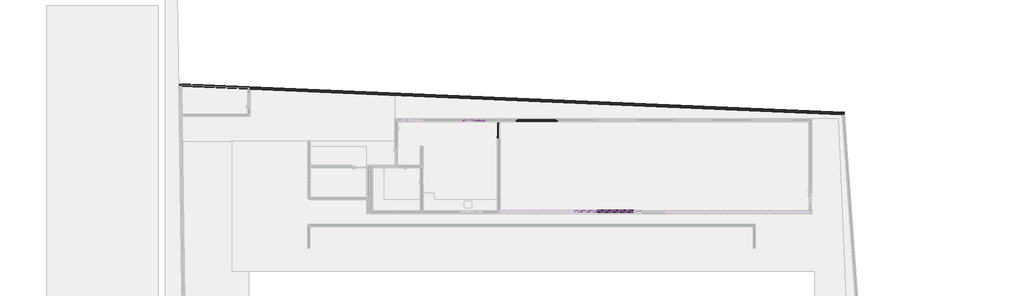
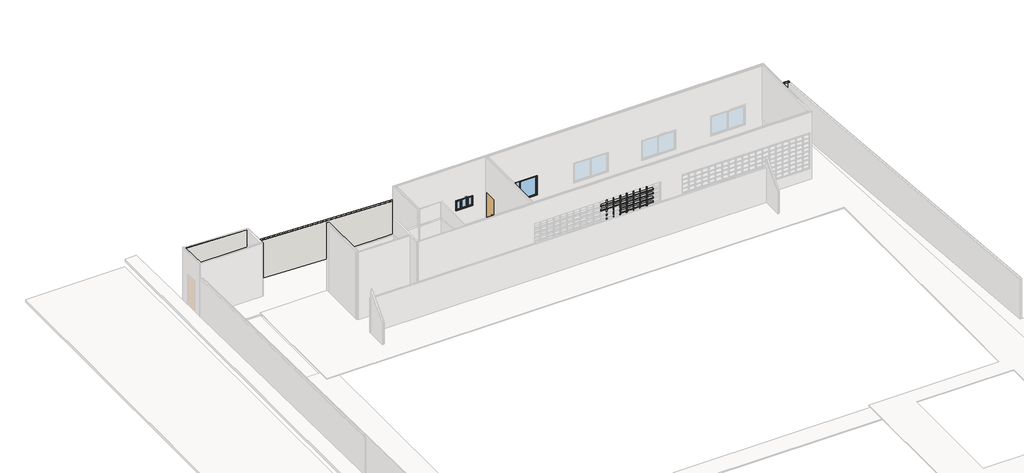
# One storey, part 23 of 28: 123 members, 3 walls, 2 doors, 2 windows.
"""IFC4 building model written with IfcOpenShell, lengths in millimetres."""

from ifc_helpers import new_model, si_unit, origin, place, context, project, spatial, faceted_brep, transform, mapped, element, save
from components import door_29174598, pf15_l82cm_5bfc7586, montante_retangular_02d07947, montante_retangular_70ba8f4d, montante_retangular_b3938234, montante_retangular_d2e0df8b, montante_retangular_ace9eee9, montante_retangular_79dc672e, montante_retangular_289212d8, montante_retangular_16e63d6c, window_1x60_2e2a47e2, window_2x1_20x1x10_9e9748dd

model = new_model("IFC4")

# Units and contexts
model_context = context("Model", 3, world=origin())
ifc_project = project(units=[si_unit("LENGTHUNIT", "METRE", prefix="MILLI")], contexts=[model_context])

# Site, building, storey
site = spatial("IfcSite", under=ifc_project)
building = spatial("IfcBuilding", under=site)
storey = spatial("IfcBuildingStorey", under=building, Name="Térreo", Elevation=0.0)

# Doors
placement = place(None, origin())
door_shape = door_29174598(model_context)
element("IfcDoor", 1, ObjectType="FDE_SO_Soleiras1 : SO14_SoleiraRampadaDesnívelAté2cm_L=14cm_Cimentado 2", at=placement, inside=storey, context=model_context, shape_type="MappedRepresentation", body=[
    mapped(door_shape, transform((-45290.0000019, 52932.0879102, 220.0), x_axis=(0.0, 1.0, 0.0), y_axis=(-1.0, 0.0, 0.0), z_axis=(0.0, 0.0, 1.0))),
])
pf15_l82cm_shape = pf15_l82cm_5bfc7586(model_context)
element("IfcDoor", 2, ObjectType="FDE_PF15_PF16_PF17_PortaemChapadeFerro : PF15_L82cm", at=placement, inside=storey, context=model_context, shape_type="MappedRepresentation", body=[
    mapped(pf15_l82cm_shape, transform((-45295.0000019, 52932.0879102, 220.0), x_axis=(0.0, 1.0, 0.0), y_axis=(-1.0, 0.0, 0.0), z_axis=(0.0, 0.0, 1.0))),
])

# Members
montante_retangular_shape = montante_retangular_02d07947(model_context)
element("IfcMember", 3, ObjectType="Montante retangular : FDE_MontanteVenezianaIndustrial_Intermediário_Ref50 (Alumínio Anodizado)", at=placement, inside=storey, context=model_context, shape_type="MappedRepresentation", body=[
    mapped(montante_retangular_shape, transform((-40818.1578948, 48589.0879102, 925.0), x_axis=(1.0, 0.0, 0.0), y_axis=(0.0, -1.0, 0.0), z_axis=(0.0, 0.0, -1.0))),
])
element("IfcMember", 4, ObjectType="Montante retangular : FDE_MontanteVenezianaIndustrial_Intermediário_Ref50 (Alumínio Anodizado)", at=placement, inside=storey, context=model_context, shape_type="MappedRepresentation", body=[
    mapped(montante_retangular_shape, transform((-40415.263158, 48589.0879102, 925.0), x_axis=(1.0, 0.0, 0.0), y_axis=(0.0, -1.0, 0.0), z_axis=(0.0, 0.0, -1.0))),
])
element("IfcMember", 5, ObjectType="Montante retangular : FDE_MontanteVenezianaIndustrial_Intermediário_Ref50 (Alumínio Anodizado)", at=placement, inside=storey, context=model_context, shape_type="MappedRepresentation", body=[
    mapped(montante_retangular_shape, transform((-40012.3684212, 48589.0879102, 925.0), x_axis=(1.0, 0.0, 0.0), y_axis=(0.0, -1.0, 0.0), z_axis=(0.0, 0.0, -1.0))),
])
element("IfcMember", 6, ObjectType="Montante retangular : FDE_MontanteVenezianaIndustrial_Intermediário_Ref50 (Alumínio Anodizado)", at=placement, inside=storey, context=model_context, shape_type="MappedRepresentation", body=[
    mapped(montante_retangular_shape, transform((-39609.4736844, 48589.0879102, 925.0), x_axis=(1.0, 0.0, 0.0), y_axis=(0.0, -1.0, 0.0), z_axis=(0.0, 0.0, -1.0))),
])
element("IfcMember", 7, ObjectType="Montante retangular : FDE_MontanteVenezianaIndustrial_Intermediário_Ref50 (Alumínio Anodizado)", at=placement, inside=storey, context=model_context, shape_type="MappedRepresentation", body=[
    mapped(montante_retangular_shape, transform((-39206.5789475, 48589.0879102, 925.0), x_axis=(1.0, 0.0, 0.0), y_axis=(0.0, -1.0, 0.0), z_axis=(0.0, 0.0, -1.0))),
])
element("IfcMember", 8, ObjectType="Montante retangular : FDE_MontanteVenezianaIndustrial_Intermediário_Ref50 (Alumínio Anodizado)", at=placement, inside=storey, context=model_context, shape_type="MappedRepresentation", body=[
    mapped(montante_retangular_shape, transform((-38803.6842107, 48589.0879102, 925.0), x_axis=(1.0, 0.0, 0.0), y_axis=(0.0, -1.0, 0.0), z_axis=(0.0, 0.0, -1.0))),
])
element("IfcMember", 9, ObjectType="Montante retangular : FDE_MontanteVenezianaIndustrial_Intermediário_Ref50 (Alumínio Anodizado)", at=placement, inside=storey, context=model_context, shape_type="MappedRepresentation", body=[
    mapped(montante_retangular_shape, transform((-38400.7894739, 48589.0879102, 925.0), x_axis=(1.0, 0.0, 0.0), y_axis=(0.0, -1.0, 0.0), z_axis=(0.0, 0.0, -1.0))),
])
montante_retangular_2_shape = montante_retangular_70ba8f4d(model_context)
element("IfcMember", 10, ObjectType="Montante retangular : FDE_MontanteVenezianaIndustrial_Intermediário_Ref50 (Alumínio Anodizado)", at=placement, inside=storey, context=model_context, shape_type="MappedRepresentation", body=[
    mapped(montante_retangular_2_shape, transform((-40818.1578948, 48589.0879102, 1174.0), x_axis=(1.0, 0.0, 0.0), y_axis=(0.0, -1.0, 0.0), z_axis=(0.0, 0.0, -1.0))),
])
element("IfcMember", 11, ObjectType="Montante retangular : FDE_MontanteVenezianaIndustrial_Intermediário_Ref50 (Alumínio Anodizado)", at=placement, inside=storey, context=model_context, shape_type="MappedRepresentation", body=[
    mapped(montante_retangular_2_shape, transform((-40415.263158, 48589.0879102, 1174.0), x_axis=(1.0, 0.0, 0.0), y_axis=(0.0, -1.0, 0.0), z_axis=(0.0, 0.0, -1.0))),
])
element("IfcMember", 12, ObjectType="Montante retangular : FDE_MontanteVenezianaIndustrial_Intermediário_Ref50 (Alumínio Anodizado)", at=placement, inside=storey, context=model_context, shape_type="MappedRepresentation", body=[
    mapped(montante_retangular_2_shape, transform((-40012.3684212, 48589.0879102, 1174.0), x_axis=(1.0, 0.0, 0.0), y_axis=(0.0, -1.0, 0.0), z_axis=(0.0, 0.0, -1.0))),
])
element("IfcMember", 13, ObjectType="Montante retangular : FDE_MontanteVenezianaIndustrial_Intermediário_Ref50 (Alumínio Anodizado)", at=placement, inside=storey, context=model_context, shape_type="MappedRepresentation", body=[
    mapped(montante_retangular_2_shape, transform((-39609.4736844, 48589.0879102, 1174.0), x_axis=(1.0, 0.0, 0.0), y_axis=(0.0, -1.0, 0.0), z_axis=(0.0, 0.0, -1.0))),
])
element("IfcMember", 14, ObjectType="Montante retangular : FDE_MontanteVenezianaIndustrial_Intermediário_Ref50 (Alumínio Anodizado)", at=placement, inside=storey, context=model_context, shape_type="MappedRepresentation", body=[
    mapped(montante_retangular_2_shape, transform((-39206.5789475, 48589.0879102, 1174.0), x_axis=(1.0, 0.0, 0.0), y_axis=(0.0, -1.0, 0.0), z_axis=(0.0, 0.0, -1.0))),
])
element("IfcMember", 15, ObjectType="Montante retangular : FDE_MontanteVenezianaIndustrial_Intermediário_Ref50 (Alumínio Anodizado)", at=placement, inside=storey, context=model_context, shape_type="MappedRepresentation", body=[
    mapped(montante_retangular_2_shape, transform((-38803.6842107, 48589.0879102, 1174.0), x_axis=(1.0, 0.0, 0.0), y_axis=(0.0, -1.0, 0.0), z_axis=(0.0, 0.0, -1.0))),
])
element("IfcMember", 16, ObjectType="Montante retangular : FDE_MontanteVenezianaIndustrial_Intermediário_Ref50 (Alumínio Anodizado)", at=placement, inside=storey, context=model_context, shape_type="MappedRepresentation", body=[
    mapped(montante_retangular_2_shape, transform((-38400.7894739, 48589.0879102, 1174.0), x_axis=(1.0, 0.0, 0.0), y_axis=(0.0, -1.0, 0.0), z_axis=(0.0, 0.0, -1.0))),
])
element("IfcMember", 17, ObjectType="Montante retangular : FDE_MontanteVenezianaIndustrial_Intermediário_Ref50 (Alumínio Anodizado)", at=placement, inside=storey, context=model_context, shape_type="MappedRepresentation", body=[
    mapped(montante_retangular_2_shape, transform((-40818.1578948, 48589.0879102, 1448.0), x_axis=(1.0, 0.0, 0.0), y_axis=(0.0, -1.0, 0.0), z_axis=(0.0, 0.0, -1.0))),
])
element("IfcMember", 18, ObjectType="Montante retangular : FDE_MontanteVenezianaIndustrial_Intermediário_Ref50 (Alumínio Anodizado)", at=placement, inside=storey, context=model_context, shape_type="MappedRepresentation", body=[
    mapped(montante_retangular_2_shape, transform((-40415.263158, 48589.0879102, 1448.0), x_axis=(1.0, 0.0, 0.0), y_axis=(0.0, -1.0, 0.0), z_axis=(0.0, 0.0, -1.0))),
])
element("IfcMember", 19, ObjectType="Montante retangular : FDE_MontanteVenezianaIndustrial_Intermediário_Ref50 (Alumínio Anodizado)", at=placement, inside=storey, context=model_context, shape_type="MappedRepresentation", body=[
    mapped(montante_retangular_2_shape, transform((-40012.3684212, 48589.0879102, 1448.0), x_axis=(1.0, 0.0, 0.0), y_axis=(0.0, -1.0, 0.0), z_axis=(0.0, 0.0, -1.0))),
])
element("IfcMember", 20, ObjectType="Montante retangular : FDE_MontanteVenezianaIndustrial_Intermediário_Ref50 (Alumínio Anodizado)", at=placement, inside=storey, context=model_context, shape_type="MappedRepresentation", body=[
    mapped(montante_retangular_2_shape, transform((-39609.4736844, 48589.0879102, 1448.0), x_axis=(1.0, 0.0, 0.0), y_axis=(0.0, -1.0, 0.0), z_axis=(0.0, 0.0, -1.0))),
])
element("IfcMember", 21, ObjectType="Montante retangular : FDE_MontanteVenezianaIndustrial_Intermediário_Ref50 (Alumínio Anodizado)", at=placement, inside=storey, context=model_context, shape_type="MappedRepresentation", body=[
    mapped(montante_retangular_2_shape, transform((-39206.5789475, 48589.0879102, 1448.0), x_axis=(1.0, 0.0, 0.0), y_axis=(0.0, -1.0, 0.0), z_axis=(0.0, 0.0, -1.0))),
])
element("IfcMember", 22, ObjectType="Montante retangular : FDE_MontanteVenezianaIndustrial_Intermediário_Ref50 (Alumínio Anodizado)", at=placement, inside=storey, context=model_context, shape_type="MappedRepresentation", body=[
    mapped(montante_retangular_2_shape, transform((-38803.6842107, 48589.0879102, 1448.0), x_axis=(1.0, 0.0, 0.0), y_axis=(0.0, -1.0, 0.0), z_axis=(0.0, 0.0, -1.0))),
])
element("IfcMember", 23, ObjectType="Montante retangular : FDE_MontanteVenezianaIndustrial_Intermediário_Ref50 (Alumínio Anodizado)", at=placement, inside=storey, context=model_context, shape_type="MappedRepresentation", body=[
    mapped(montante_retangular_2_shape, transform((-38400.7894739, 48589.0879102, 1448.0), x_axis=(1.0, 0.0, 0.0), y_axis=(0.0, -1.0, 0.0), z_axis=(0.0, 0.0, -1.0))),
])
element("IfcMember", 24, ObjectType="Montante retangular : FDE_MontanteVenezianaIndustrial_Intermediário_Ref50 (Alumínio Anodizado)", at=placement, inside=storey, context=model_context, shape_type="MappedRepresentation", body=[
    mapped(montante_retangular_2_shape, transform((-40818.1578948, 48589.0879102, 1722.0), x_axis=(1.0, 0.0, 0.0), y_axis=(0.0, -1.0, 0.0), z_axis=(0.0, 0.0, -1.0))),
])
element("IfcMember", 25, ObjectType="Montante retangular : FDE_MontanteVenezianaIndustrial_Intermediário_Ref50 (Alumínio Anodizado)", at=placement, inside=storey, context=model_context, shape_type="MappedRepresentation", body=[
    mapped(montante_retangular_2_shape, transform((-40415.263158, 48589.0879102, 1722.0), x_axis=(1.0, 0.0, 0.0), y_axis=(0.0, -1.0, 0.0), z_axis=(0.0, 0.0, -1.0))),
])
element("IfcMember", 26, ObjectType="Montante retangular : FDE_MontanteVenezianaIndustrial_Intermediário_Ref50 (Alumínio Anodizado)", at=placement, inside=storey, context=model_context, shape_type="MappedRepresentation", body=[
    mapped(montante_retangular_2_shape, transform((-40012.3684212, 48589.0879102, 1722.0), x_axis=(1.0, 0.0, 0.0), y_axis=(0.0, -1.0, 0.0), z_axis=(0.0, 0.0, -1.0))),
])
element("IfcMember", 27, ObjectType="Montante retangular : FDE_MontanteVenezianaIndustrial_Intermediário_Ref50 (Alumínio Anodizado)", at=placement, inside=storey, context=model_context, shape_type="MappedRepresentation", body=[
    mapped(montante_retangular_2_shape, transform((-39609.4736844, 48589.0879102, 1722.0), x_axis=(1.0, 0.0, 0.0), y_axis=(0.0, -1.0, 0.0), z_axis=(0.0, 0.0, -1.0))),
])
element("IfcMember", 28, ObjectType="Montante retangular : FDE_MontanteVenezianaIndustrial_Intermediário_Ref50 (Alumínio Anodizado)", at=placement, inside=storey, context=model_context, shape_type="MappedRepresentation", body=[
    mapped(montante_retangular_2_shape, transform((-39206.5789475, 48589.0879102, 1722.0), x_axis=(1.0, 0.0, 0.0), y_axis=(0.0, -1.0, 0.0), z_axis=(0.0, 0.0, -1.0))),
])
element("IfcMember", 29, ObjectType="Montante retangular : FDE_MontanteVenezianaIndustrial_Intermediário_Ref50 (Alumínio Anodizado)", at=placement, inside=storey, context=model_context, shape_type="MappedRepresentation", body=[
    mapped(montante_retangular_2_shape, transform((-38803.6842107, 48589.0879102, 1722.0), x_axis=(1.0, 0.0, 0.0), y_axis=(0.0, -1.0, 0.0), z_axis=(0.0, 0.0, -1.0))),
])
element("IfcMember", 30, ObjectType="Montante retangular : FDE_MontanteVenezianaIndustrial_Intermediário_Ref50 (Alumínio Anodizado)", at=placement, inside=storey, context=model_context, shape_type="MappedRepresentation", body=[
    mapped(montante_retangular_2_shape, transform((-38400.7894739, 48589.0879102, 1722.0), x_axis=(1.0, 0.0, 0.0), y_axis=(0.0, -1.0, 0.0), z_axis=(0.0, 0.0, -1.0))),
])
element("IfcMember", 31, ObjectType="Montante retangular : FDE_MontanteVenezianaIndustrial_Intermediário_Ref50 (Alumínio Anodizado)", at=placement, inside=storey, context=model_context, shape_type="MappedRepresentation", body=[
    mapped(montante_retangular_2_shape, transform((-40818.1578948, 48589.0879102, 1996.0), x_axis=(1.0, 0.0, 0.0), y_axis=(0.0, -1.0, 0.0), z_axis=(0.0, 0.0, -1.0))),
])
element("IfcMember", 32, ObjectType="Montante retangular : FDE_MontanteVenezianaIndustrial_Intermediário_Ref50 (Alumínio Anodizado)", at=placement, inside=storey, context=model_context, shape_type="MappedRepresentation", body=[
    mapped(montante_retangular_2_shape, transform((-40415.263158, 48589.0879102, 1996.0), x_axis=(1.0, 0.0, 0.0), y_axis=(0.0, -1.0, 0.0), z_axis=(0.0, 0.0, -1.0))),
])
element("IfcMember", 33, ObjectType="Montante retangular : FDE_MontanteVenezianaIndustrial_Intermediário_Ref50 (Alumínio Anodizado)", at=placement, inside=storey, context=model_context, shape_type="MappedRepresentation", body=[
    mapped(montante_retangular_2_shape, transform((-40012.3684212, 48589.0879102, 1996.0), x_axis=(1.0, 0.0, 0.0), y_axis=(0.0, -1.0, 0.0), z_axis=(0.0, 0.0, -1.0))),
])
element("IfcMember", 34, ObjectType="Montante retangular : FDE_MontanteVenezianaIndustrial_Intermediário_Ref50 (Alumínio Anodizado)", at=placement, inside=storey, context=model_context, shape_type="MappedRepresentation", body=[
    mapped(montante_retangular_2_shape, transform((-39609.4736844, 48589.0879102, 1996.0), x_axis=(1.0, 0.0, 0.0), y_axis=(0.0, -1.0, 0.0), z_axis=(0.0, 0.0, -1.0))),
])
element("IfcMember", 35, ObjectType="Montante retangular : FDE_MontanteVenezianaIndustrial_Intermediário_Ref50 (Alumínio Anodizado)", at=placement, inside=storey, context=model_context, shape_type="MappedRepresentation", body=[
    mapped(montante_retangular_2_shape, transform((-39206.5789475, 48589.0879102, 1996.0), x_axis=(1.0, 0.0, 0.0), y_axis=(0.0, -1.0, 0.0), z_axis=(0.0, 0.0, -1.0))),
])
element("IfcMember", 36, ObjectType="Montante retangular : FDE_MontanteVenezianaIndustrial_Intermediário_Ref50 (Alumínio Anodizado)", at=placement, inside=storey, context=model_context, shape_type="MappedRepresentation", body=[
    mapped(montante_retangular_2_shape, transform((-38803.6842107, 48589.0879102, 1996.0), x_axis=(1.0, 0.0, 0.0), y_axis=(0.0, -1.0, 0.0), z_axis=(0.0, 0.0, -1.0))),
])
element("IfcMember", 37, ObjectType="Montante retangular : FDE_MontanteVenezianaIndustrial_Intermediário_Ref50 (Alumínio Anodizado)", at=placement, inside=storey, context=model_context, shape_type="MappedRepresentation", body=[
    mapped(montante_retangular_2_shape, transform((-38400.7894739, 48589.0879102, 1996.0), x_axis=(1.0, 0.0, 0.0), y_axis=(0.0, -1.0, 0.0), z_axis=(0.0, 0.0, -1.0))),
])
element("IfcMember", 38, ObjectType="Montante retangular : FDE_MontanteVenezianaIndustrial_Intermediário_Ref50 (Alumínio Anodizado)", at=placement, inside=storey, context=model_context, shape_type="MappedRepresentation", body=[
    mapped(montante_retangular_2_shape, transform((-40818.1578948, 48589.0879102, 2270.0), x_axis=(1.0, 0.0, 0.0), y_axis=(0.0, -1.0, 0.0), z_axis=(0.0, 0.0, -1.0))),
])
element("IfcMember", 39, ObjectType="Montante retangular : FDE_MontanteVenezianaIndustrial_Intermediário_Ref50 (Alumínio Anodizado)", at=placement, inside=storey, context=model_context, shape_type="MappedRepresentation", body=[
    mapped(montante_retangular_2_shape, transform((-40415.263158, 48589.0879102, 2270.0), x_axis=(1.0, 0.0, 0.0), y_axis=(0.0, -1.0, 0.0), z_axis=(0.0, 0.0, -1.0))),
])
element("IfcMember", 40, ObjectType="Montante retangular : FDE_MontanteVenezianaIndustrial_Intermediário_Ref50 (Alumínio Anodizado)", at=placement, inside=storey, context=model_context, shape_type="MappedRepresentation", body=[
    mapped(montante_retangular_2_shape, transform((-40012.3684212, 48589.0879102, 2270.0), x_axis=(1.0, 0.0, 0.0), y_axis=(0.0, -1.0, 0.0), z_axis=(0.0, 0.0, -1.0))),
])
element("IfcMember", 41, ObjectType="Montante retangular : FDE_MontanteVenezianaIndustrial_Intermediário_Ref50 (Alumínio Anodizado)", at=placement, inside=storey, context=model_context, shape_type="MappedRepresentation", body=[
    mapped(montante_retangular_2_shape, transform((-39609.4736844, 48589.0879102, 2270.0), x_axis=(1.0, 0.0, 0.0), y_axis=(0.0, -1.0, 0.0), z_axis=(0.0, 0.0, -1.0))),
])
element("IfcMember", 42, ObjectType="Montante retangular : FDE_MontanteVenezianaIndustrial_Intermediário_Ref50 (Alumínio Anodizado)", at=placement, inside=storey, context=model_context, shape_type="MappedRepresentation", body=[
    mapped(montante_retangular_2_shape, transform((-39206.5789475, 48589.0879102, 2270.0), x_axis=(1.0, 0.0, 0.0), y_axis=(0.0, -1.0, 0.0), z_axis=(0.0, 0.0, -1.0))),
])
element("IfcMember", 43, ObjectType="Montante retangular : FDE_MontanteVenezianaIndustrial_Intermediário_Ref50 (Alumínio Anodizado)", at=placement, inside=storey, context=model_context, shape_type="MappedRepresentation", body=[
    mapped(montante_retangular_2_shape, transform((-38803.6842107, 48589.0879102, 2270.0), x_axis=(1.0, 0.0, 0.0), y_axis=(0.0, -1.0, 0.0), z_axis=(0.0, 0.0, -1.0))),
])
element("IfcMember", 44, ObjectType="Montante retangular : FDE_MontanteVenezianaIndustrial_Intermediário_Ref50 (Alumínio Anodizado)", at=placement, inside=storey, context=model_context, shape_type="MappedRepresentation", body=[
    mapped(montante_retangular_2_shape, transform((-38400.7894739, 48589.0879102, 2270.0), x_axis=(1.0, 0.0, 0.0), y_axis=(0.0, -1.0, 0.0), z_axis=(0.0, 0.0, -1.0))),
])
element("IfcMember", 45, ObjectType="Montante retangular : FDE_MontanteVenezianaIndustrial_Intermediário_Ref50 (Alumínio Anodizado)", at=placement, inside=storey, context=model_context, shape_type="MappedRepresentation", body=[
    mapped(montante_retangular_2_shape, transform((-40818.1578948, 48589.0879102, 2544.0), x_axis=(1.0, 0.0, 0.0), y_axis=(0.0, -1.0, 0.0), z_axis=(0.0, 0.0, -1.0))),
])
element("IfcMember", 46, ObjectType="Montante retangular : FDE_MontanteVenezianaIndustrial_Intermediário_Ref50 (Alumínio Anodizado)", at=placement, inside=storey, context=model_context, shape_type="MappedRepresentation", body=[
    mapped(montante_retangular_2_shape, transform((-40415.263158, 48589.0879102, 2544.0), x_axis=(1.0, 0.0, 0.0), y_axis=(0.0, -1.0, 0.0), z_axis=(0.0, 0.0, -1.0))),
])
element("IfcMember", 47, ObjectType="Montante retangular : FDE_MontanteVenezianaIndustrial_Intermediário_Ref50 (Alumínio Anodizado)", at=placement, inside=storey, context=model_context, shape_type="MappedRepresentation", body=[
    mapped(montante_retangular_2_shape, transform((-40012.3684212, 48589.0879102, 2544.0), x_axis=(1.0, 0.0, 0.0), y_axis=(0.0, -1.0, 0.0), z_axis=(0.0, 0.0, -1.0))),
])
element("IfcMember", 48, ObjectType="Montante retangular : FDE_MontanteVenezianaIndustrial_Intermediário_Ref50 (Alumínio Anodizado)", at=placement, inside=storey, context=model_context, shape_type="MappedRepresentation", body=[
    mapped(montante_retangular_2_shape, transform((-39609.4736844, 48589.0879102, 2544.0), x_axis=(1.0, 0.0, 0.0), y_axis=(0.0, -1.0, 0.0), z_axis=(0.0, 0.0, -1.0))),
])
element("IfcMember", 49, ObjectType="Montante retangular : FDE_MontanteVenezianaIndustrial_Intermediário_Ref50 (Alumínio Anodizado)", at=placement, inside=storey, context=model_context, shape_type="MappedRepresentation", body=[
    mapped(montante_retangular_2_shape, transform((-39206.5789475, 48589.0879102, 2544.0), x_axis=(1.0, 0.0, 0.0), y_axis=(0.0, -1.0, 0.0), z_axis=(0.0, 0.0, -1.0))),
])
element("IfcMember", 50, ObjectType="Montante retangular : FDE_MontanteVenezianaIndustrial_Intermediário_Ref50 (Alumínio Anodizado)", at=placement, inside=storey, context=model_context, shape_type="MappedRepresentation", body=[
    mapped(montante_retangular_2_shape, transform((-38803.6842107, 48589.0879102, 2544.0), x_axis=(1.0, 0.0, 0.0), y_axis=(0.0, -1.0, 0.0), z_axis=(0.0, 0.0, -1.0))),
])
element("IfcMember", 51, ObjectType="Montante retangular : FDE_MontanteVenezianaIndustrial_Intermediário_Ref50 (Alumínio Anodizado)", at=placement, inside=storey, context=model_context, shape_type="MappedRepresentation", body=[
    mapped(montante_retangular_2_shape, transform((-38400.7894739, 48589.0879102, 2544.0), x_axis=(1.0, 0.0, 0.0), y_axis=(0.0, -1.0, 0.0), z_axis=(0.0, 0.0, -1.0))),
])
element("IfcMember", 52, ObjectType="Montante retangular : FDE_MontanteVenezianaIndustrial_Intermediário_Ref50 (Alumínio Anodizado)", at=placement, inside=storey, context=model_context, shape_type="MappedRepresentation", body=[
    mapped(montante_retangular_2_shape, transform((-40818.1578948, 48589.0879102, 2818.0), x_axis=(1.0, 0.0, 0.0), y_axis=(0.0, -1.0, 0.0), z_axis=(0.0, 0.0, -1.0))),
])
element("IfcMember", 53, ObjectType="Montante retangular : FDE_MontanteVenezianaIndustrial_Intermediário_Ref50 (Alumínio Anodizado)", at=placement, inside=storey, context=model_context, shape_type="MappedRepresentation", body=[
    mapped(montante_retangular_2_shape, transform((-40415.263158, 48589.0879102, 2818.0), x_axis=(1.0, 0.0, 0.0), y_axis=(0.0, -1.0, 0.0), z_axis=(0.0, 0.0, -1.0))),
])
element("IfcMember", 54, ObjectType="Montante retangular : FDE_MontanteVenezianaIndustrial_Intermediário_Ref50 (Alumínio Anodizado)", at=placement, inside=storey, context=model_context, shape_type="MappedRepresentation", body=[
    mapped(montante_retangular_2_shape, transform((-40012.3684212, 48589.0879102, 2818.0), x_axis=(1.0, 0.0, 0.0), y_axis=(0.0, -1.0, 0.0), z_axis=(0.0, 0.0, -1.0))),
])
element("IfcMember", 55, ObjectType="Montante retangular : FDE_MontanteVenezianaIndustrial_Intermediário_Ref50 (Alumínio Anodizado)", at=placement, inside=storey, context=model_context, shape_type="MappedRepresentation", body=[
    mapped(montante_retangular_2_shape, transform((-39609.4736844, 48589.0879102, 2818.0), x_axis=(1.0, 0.0, 0.0), y_axis=(0.0, -1.0, 0.0), z_axis=(0.0, 0.0, -1.0))),
])
element("IfcMember", 56, ObjectType="Montante retangular : FDE_MontanteVenezianaIndustrial_Intermediário_Ref50 (Alumínio Anodizado)", at=placement, inside=storey, context=model_context, shape_type="MappedRepresentation", body=[
    mapped(montante_retangular_2_shape, transform((-39206.5789475, 48589.0879102, 2818.0), x_axis=(1.0, 0.0, 0.0), y_axis=(0.0, -1.0, 0.0), z_axis=(0.0, 0.0, -1.0))),
])
element("IfcMember", 57, ObjectType="Montante retangular : FDE_MontanteVenezianaIndustrial_Intermediário_Ref50 (Alumínio Anodizado)", at=placement, inside=storey, context=model_context, shape_type="MappedRepresentation", body=[
    mapped(montante_retangular_2_shape, transform((-38803.6842107, 48589.0879102, 2818.0), x_axis=(1.0, 0.0, 0.0), y_axis=(0.0, -1.0, 0.0), z_axis=(0.0, 0.0, -1.0))),
])
element("IfcMember", 58, ObjectType="Montante retangular : FDE_MontanteVenezianaIndustrial_Intermediário_Ref50 (Alumínio Anodizado)", at=placement, inside=storey, context=model_context, shape_type="MappedRepresentation", body=[
    mapped(montante_retangular_2_shape, transform((-38400.7894739, 48589.0879102, 2818.0), x_axis=(1.0, 0.0, 0.0), y_axis=(0.0, -1.0, 0.0), z_axis=(0.0, 0.0, -1.0))),
])
montante_retangular_3_shape = montante_retangular_b3938234(model_context)
element("IfcMember", 59, ObjectType="Montante retangular : FDE_MontanteVenezianaIndustrial_BordaOpção2_Ref50 (Alumínio Anodizado)", at=placement, inside=storey, context=model_context, shape_type="MappedRepresentation", body=[
    mapped(montante_retangular_3_shape, transform((-37595.0, 48589.0879102, 925.0), x_axis=(1.0, 0.0, 0.0), y_axis=(0.0, -1.0, 0.0), z_axis=(0.0, 0.0, -1.0))),
])
montante_retangular_4_shape = montante_retangular_d2e0df8b(model_context)
element("IfcMember", 60, ObjectType="Montante retangular : FDE_MontanteVenezianaIndustrial_BordaOpção2_Ref50 (Alumínio Anodizado)", at=placement, inside=storey, context=model_context, shape_type="MappedRepresentation", body=[
    mapped(montante_retangular_4_shape, transform((-37595.0, 48589.0879102, 1174.0), x_axis=(1.0, 0.0, 0.0), y_axis=(0.0, -1.0, 0.0), z_axis=(0.0, 0.0, -1.0))),
])
element("IfcMember", 61, ObjectType="Montante retangular : FDE_MontanteVenezianaIndustrial_BordaOpção2_Ref50 (Alumínio Anodizado)", at=placement, inside=storey, context=model_context, shape_type="MappedRepresentation", body=[
    mapped(montante_retangular_4_shape, transform((-37595.0, 48589.0879102, 1448.0), x_axis=(1.0, 0.0, 0.0), y_axis=(0.0, -1.0, 0.0), z_axis=(0.0, 0.0, -1.0))),
])
montante_retangular_5_shape = montante_retangular_ace9eee9(model_context)
element("IfcMember", 62, ObjectType="Montante retangular : FDE_MontanteVenezianaIndustrial_Intermediário_Ref50 (Alumínio Anodizado)", at=placement, inside=storey, context=model_context, shape_type="MappedRepresentation", body=[
    mapped(montante_retangular_5_shape, transform((-40818.1578948, 48589.0879102, 3092.0), x_axis=(1.0, 0.0, 0.0), y_axis=(0.0, -1.0, 0.0), z_axis=(0.0, 0.0, -1.0))),
])
element("IfcMember", 63, ObjectType="Montante retangular : FDE_MontanteVenezianaIndustrial_Intermediário_Ref50 (Alumínio Anodizado)", at=placement, inside=storey, context=model_context, shape_type="MappedRepresentation", body=[
    mapped(montante_retangular_5_shape, transform((-40415.263158, 48589.0879102, 3092.0), x_axis=(1.0, 0.0, 0.0), y_axis=(0.0, -1.0, 0.0), z_axis=(0.0, 0.0, -1.0))),
])
element("IfcMember", 64, ObjectType="Montante retangular : FDE_MontanteVenezianaIndustrial_Intermediário_Ref50 (Alumínio Anodizado)", at=placement, inside=storey, context=model_context, shape_type="MappedRepresentation", body=[
    mapped(montante_retangular_5_shape, transform((-40012.3684212, 48589.0879102, 3092.0), x_axis=(1.0, 0.0, 0.0), y_axis=(0.0, -1.0, 0.0), z_axis=(0.0, 0.0, -1.0))),
])
element("IfcMember", 65, ObjectType="Montante retangular : FDE_MontanteVenezianaIndustrial_Intermediário_Ref50 (Alumínio Anodizado)", at=placement, inside=storey, context=model_context, shape_type="MappedRepresentation", body=[
    mapped(montante_retangular_5_shape, transform((-39609.4736844, 48589.0879102, 3092.0), x_axis=(1.0, 0.0, 0.0), y_axis=(0.0, -1.0, 0.0), z_axis=(0.0, 0.0, -1.0))),
])
element("IfcMember", 66, ObjectType="Montante retangular : FDE_MontanteVenezianaIndustrial_Intermediário_Ref50 (Alumínio Anodizado)", at=placement, inside=storey, context=model_context, shape_type="MappedRepresentation", body=[
    mapped(montante_retangular_5_shape, transform((-39206.5789475, 48589.0879102, 3092.0), x_axis=(1.0, 0.0, 0.0), y_axis=(0.0, -1.0, 0.0), z_axis=(0.0, 0.0, -1.0))),
])
element("IfcMember", 67, ObjectType="Montante retangular : FDE_MontanteVenezianaIndustrial_Intermediário_Ref50 (Alumínio Anodizado)", at=placement, inside=storey, context=model_context, shape_type="MappedRepresentation", body=[
    mapped(montante_retangular_5_shape, transform((-38803.6842107, 48589.0879102, 3092.0), x_axis=(1.0, 0.0, 0.0), y_axis=(0.0, -1.0, 0.0), z_axis=(0.0, 0.0, -1.0))),
])
element("IfcMember", 68, ObjectType="Montante retangular : FDE_MontanteVenezianaIndustrial_Intermediário_Ref50 (Alumínio Anodizado)", at=placement, inside=storey, context=model_context, shape_type="MappedRepresentation", body=[
    mapped(montante_retangular_5_shape, transform((-38400.7894739, 48589.0879102, 3092.0), x_axis=(1.0, 0.0, 0.0), y_axis=(0.0, -1.0, 0.0), z_axis=(0.0, 0.0, -1.0))),
])
montante_retangular_6_shape = montante_retangular_79dc672e(model_context)
element("IfcMember", 69, ObjectType="Montante retangular : FDE_MontanteVenezianaIndustrial_BordaOpção2_Ref50 (Alumínio Anodizado)", at=placement, inside=storey, context=model_context, shape_type="MappedRepresentation", body=[
    mapped(montante_retangular_6_shape, transform((-37595.0, 48589.0879102, 3200.0), x_axis=(0.0, 0.0, 1.0), y_axis=(0.0, -1.0, 0.0), z_axis=(1.0, 0.0, 0.0))),
])
montante_retangular_7_shape = montante_retangular_289212d8(model_context)
element("IfcMember", 70, ObjectType="Montante retangular : FDE_MontanteVenezianaIndustrial_BordaOpção2_Ref50 (Alumínio Anodizado)", at=placement, inside=storey, context=model_context, shape_type="MappedRepresentation", body=[
    mapped(montante_retangular_7_shape, transform((-39609.4736844, 48589.0879102, 3200.0), x_axis=(0.0, 0.0, 1.0), y_axis=(0.0, -1.0, 0.0), z_axis=(1.0, 0.0, 0.0))),
])
element("IfcMember", 71, ObjectType="Montante retangular : FDE_MontanteVenezianaIndustrial_BordaOpção2_Ref50 (Alumínio Anodizado)", at=placement, inside=storey, context=model_context, shape_type="MappedRepresentation", body=[
    mapped(montante_retangular_7_shape, transform((-39206.5789475, 48589.0879102, 3200.0), x_axis=(0.0, 0.0, 1.0), y_axis=(0.0, -1.0, 0.0), z_axis=(1.0, 0.0, 0.0))),
])
element("IfcMember", 72, ObjectType="Montante retangular : FDE_MontanteVenezianaIndustrial_BordaOpção2_Ref50 (Alumínio Anodizado)", at=placement, inside=storey, context=model_context, shape_type="MappedRepresentation", body=[
    mapped(montante_retangular_7_shape, transform((-38803.6842107, 48589.0879102, 3200.0), x_axis=(0.0, 0.0, 1.0), y_axis=(0.0, -1.0, 0.0), z_axis=(1.0, 0.0, 0.0))),
])
element("IfcMember", 73, ObjectType="Montante retangular : FDE_MontanteVenezianaIndustrial_BordaOpção2_Ref50 (Alumínio Anodizado)", at=placement, inside=storey, context=model_context, shape_type="MappedRepresentation", body=[
    mapped(montante_retangular_7_shape, transform((-38400.7894739, 48589.0879102, 3200.0), x_axis=(0.0, 0.0, 1.0), y_axis=(0.0, -1.0, 0.0), z_axis=(1.0, 0.0, 0.0))),
])
element("IfcMember", 74, ObjectType="Montante retangular : FDE_MontanteVenezianaIndustrial_BordaOpção2_Ref50 (Alumínio Anodizado)", at=placement, inside=storey, context=model_context, shape_type="MappedRepresentation", body=[
    mapped(montante_retangular_7_shape, transform((-37997.8947371, 48589.0879102, 3200.0), x_axis=(0.0, 0.0, 1.0), y_axis=(0.0, -1.0, 0.0), z_axis=(1.0, 0.0, 0.0))),
])
element("IfcMember", 75, ObjectType="Montante retangular : FDE_MontanteVenezianaIndustrial_BordaOpção1_Ref50 (Alumínio Anodizado)", at=placement, inside=storey, context=model_context, shape_type="MappedRepresentation", body=[
    mapped(montante_retangular_7_shape, transform((-39609.4736844, 48589.0879102, 900.0), x_axis=(0.0, 0.0, -1.0), y_axis=(0.0, -1.0, 0.0), z_axis=(-1.0, 0.0, 0.0))),
])
element("IfcMember", 76, ObjectType="Montante retangular : FDE_MontanteVenezianaIndustrial_BordaOpção1_Ref50 (Alumínio Anodizado)", at=placement, inside=storey, context=model_context, shape_type="MappedRepresentation", body=[
    mapped(montante_retangular_7_shape, transform((-39206.5789475, 48589.0879102, 900.0), x_axis=(0.0, 0.0, -1.0), y_axis=(0.0, -1.0, 0.0), z_axis=(-1.0, 0.0, 0.0))),
])
element("IfcMember", 77, ObjectType="Montante retangular : FDE_MontanteVenezianaIndustrial_BordaOpção1_Ref50 (Alumínio Anodizado)", at=placement, inside=storey, context=model_context, shape_type="MappedRepresentation", body=[
    mapped(montante_retangular_7_shape, transform((-38803.6842107, 48589.0879102, 900.0), x_axis=(0.0, 0.0, -1.0), y_axis=(0.0, -1.0, 0.0), z_axis=(-1.0, 0.0, 0.0))),
])
element("IfcMember", 78, ObjectType="Montante retangular : FDE_MontanteVenezianaIndustrial_BordaOpção1_Ref50 (Alumínio Anodizado)", at=placement, inside=storey, context=model_context, shape_type="MappedRepresentation", body=[
    mapped(montante_retangular_7_shape, transform((-38400.7894739, 48589.0879102, 900.0), x_axis=(0.0, 0.0, -1.0), y_axis=(0.0, -1.0, 0.0), z_axis=(-1.0, 0.0, 0.0))),
])
element("IfcMember", 79, ObjectType="Montante retangular : FDE_MontanteVenezianaIndustrial_BordaOpção1_Ref50 (Alumínio Anodizado)", at=placement, inside=storey, context=model_context, shape_type="MappedRepresentation", body=[
    mapped(montante_retangular_6_shape, transform((-37997.8947371, 48589.0879102, 900.0), x_axis=(0.0, 0.0, -1.0), y_axis=(0.0, -1.0, 0.0), z_axis=(-1.0, 0.0, 0.0))),
])
montante_retangular_8_shape = montante_retangular_16e63d6c(model_context)
element("IfcMember", 80, ObjectType="Montante retangular : FDE_AletaVenezianaIndustrial_Ref100 (Alumínio Anodizado)", at=placement, inside=storey, context=model_context, shape_type="MappedRepresentation", body=[
    mapped(montante_retangular_8_shape, transform((-39634.4736844, 48589.0879102, 1174.0), x_axis=(0.0, 0.0, 1.0), y_axis=(0.0, -1.0, 0.0), z_axis=(1.0, 0.0, 0.0))),
])
element("IfcMember", 81, ObjectType="Montante retangular : FDE_AletaVenezianaIndustrial_Ref100 (Alumínio Anodizado)", at=placement, inside=storey, context=model_context, shape_type="MappedRepresentation", body=[
    mapped(montante_retangular_8_shape, transform((-39231.5789475, 48589.0879102, 1174.0), x_axis=(0.0, 0.0, 1.0), y_axis=(0.0, -1.0, 0.0), z_axis=(1.0, 0.0, 0.0))),
])
element("IfcMember", 82, ObjectType="Montante retangular : FDE_AletaVenezianaIndustrial_Ref100 (Alumínio Anodizado)", at=placement, inside=storey, context=model_context, shape_type="MappedRepresentation", body=[
    mapped(montante_retangular_8_shape, transform((-38828.6842107, 48589.0879102, 1174.0), x_axis=(0.0, 0.0, 1.0), y_axis=(0.0, -1.0, 0.0), z_axis=(1.0, 0.0, 0.0))),
])
element("IfcMember", 83, ObjectType="Montante retangular : FDE_AletaVenezianaIndustrial_Ref100 (Alumínio Anodizado)", at=placement, inside=storey, context=model_context, shape_type="MappedRepresentation", body=[
    mapped(montante_retangular_8_shape, transform((-38425.7894739, 48589.0879102, 1174.0), x_axis=(0.0, 0.0, 1.0), y_axis=(0.0, -1.0, 0.0), z_axis=(1.0, 0.0, 0.0))),
])
element("IfcMember", 84, ObjectType="Montante retangular : FDE_AletaVenezianaIndustrial_Ref100 (Alumínio Anodizado)", at=placement, inside=storey, context=model_context, shape_type="MappedRepresentation", body=[
    mapped(montante_retangular_8_shape, transform((-38022.8947371, 48589.0879102, 1174.0), x_axis=(0.0, 0.0, 1.0), y_axis=(0.0, -1.0, 0.0), z_axis=(1.0, 0.0, 0.0))),
])
element("IfcMember", 85, ObjectType="Montante retangular : FDE_AletaVenezianaIndustrial_Ref100 (Alumínio Anodizado)", at=placement, inside=storey, context=model_context, shape_type="MappedRepresentation", body=[
    mapped(montante_retangular_8_shape, transform((-39634.4736844, 48589.0879102, 1448.0), x_axis=(0.0, 0.0, 1.0), y_axis=(0.0, -1.0, 0.0), z_axis=(1.0, 0.0, 0.0))),
])
element("IfcMember", 86, ObjectType="Montante retangular : FDE_AletaVenezianaIndustrial_Ref100 (Alumínio Anodizado)", at=placement, inside=storey, context=model_context, shape_type="MappedRepresentation", body=[
    mapped(montante_retangular_8_shape, transform((-39231.5789475, 48589.0879102, 1448.0), x_axis=(0.0, 0.0, 1.0), y_axis=(0.0, -1.0, 0.0), z_axis=(1.0, 0.0, 0.0))),
])
element("IfcMember", 87, ObjectType="Montante retangular : FDE_AletaVenezianaIndustrial_Ref100 (Alumínio Anodizado)", at=placement, inside=storey, context=model_context, shape_type="MappedRepresentation", body=[
    mapped(montante_retangular_8_shape, transform((-38828.6842107, 48589.0879102, 1448.0), x_axis=(0.0, 0.0, 1.0), y_axis=(0.0, -1.0, 0.0), z_axis=(1.0, 0.0, 0.0))),
])
element("IfcMember", 88, ObjectType="Montante retangular : FDE_AletaVenezianaIndustrial_Ref100 (Alumínio Anodizado)", at=placement, inside=storey, context=model_context, shape_type="MappedRepresentation", body=[
    mapped(montante_retangular_8_shape, transform((-38425.7894739, 48589.0879102, 1448.0), x_axis=(0.0, 0.0, 1.0), y_axis=(0.0, -1.0, 0.0), z_axis=(1.0, 0.0, 0.0))),
])
element("IfcMember", 89, ObjectType="Montante retangular : FDE_AletaVenezianaIndustrial_Ref100 (Alumínio Anodizado)", at=placement, inside=storey, context=model_context, shape_type="MappedRepresentation", body=[
    mapped(montante_retangular_8_shape, transform((-38022.8947371, 48589.0879102, 1448.0), x_axis=(0.0, 0.0, 1.0), y_axis=(0.0, -1.0, 0.0), z_axis=(1.0, 0.0, 0.0))),
])
element("IfcMember", 90, ObjectType="Montante retangular : FDE_AletaVenezianaIndustrial_Ref100 (Alumínio Anodizado)", at=placement, inside=storey, context=model_context, shape_type="MappedRepresentation", body=[
    mapped(montante_retangular_8_shape, transform((-39634.4736844, 48589.0879102, 1722.0), x_axis=(0.0, 0.0, 1.0), y_axis=(0.0, -1.0, 0.0), z_axis=(1.0, 0.0, 0.0))),
])
element("IfcMember", 91, ObjectType="Montante retangular : FDE_AletaVenezianaIndustrial_Ref100 (Alumínio Anodizado)", at=placement, inside=storey, context=model_context, shape_type="MappedRepresentation", body=[
    mapped(montante_retangular_8_shape, transform((-39231.5789475, 48589.0879102, 1722.0), x_axis=(0.0, 0.0, 1.0), y_axis=(0.0, -1.0, 0.0), z_axis=(1.0, 0.0, 0.0))),
])
element("IfcMember", 92, ObjectType="Montante retangular : FDE_AletaVenezianaIndustrial_Ref100 (Alumínio Anodizado)", at=placement, inside=storey, context=model_context, shape_type="MappedRepresentation", body=[
    mapped(montante_retangular_8_shape, transform((-38828.6842107, 48589.0879102, 1722.0), x_axis=(0.0, 0.0, 1.0), y_axis=(0.0, -1.0, 0.0), z_axis=(1.0, 0.0, 0.0))),
])
element("IfcMember", 93, ObjectType="Montante retangular : FDE_AletaVenezianaIndustrial_Ref100 (Alumínio Anodizado)", at=placement, inside=storey, context=model_context, shape_type="MappedRepresentation", body=[
    mapped(montante_retangular_8_shape, transform((-38425.7894739, 48589.0879102, 1722.0), x_axis=(0.0, 0.0, 1.0), y_axis=(0.0, -1.0, 0.0), z_axis=(1.0, 0.0, 0.0))),
])
element("IfcMember", 94, ObjectType="Montante retangular : FDE_AletaVenezianaIndustrial_Ref100 (Alumínio Anodizado)", at=placement, inside=storey, context=model_context, shape_type="MappedRepresentation", body=[
    mapped(montante_retangular_8_shape, transform((-38022.8947371, 48589.0879102, 1722.0), x_axis=(0.0, 0.0, 1.0), y_axis=(0.0, -1.0, 0.0), z_axis=(1.0, 0.0, 0.0))),
])
element("IfcMember", 95, ObjectType="Montante retangular : FDE_AletaVenezianaIndustrial_Ref100 (Alumínio Anodizado)", at=placement, inside=storey, context=model_context, shape_type="MappedRepresentation", body=[
    mapped(montante_retangular_8_shape, transform((-39634.4736844, 48589.0879102, 1996.0), x_axis=(0.0, 0.0, 1.0), y_axis=(0.0, -1.0, 0.0), z_axis=(1.0, 0.0, 0.0))),
])
element("IfcMember", 96, ObjectType="Montante retangular : FDE_AletaVenezianaIndustrial_Ref100 (Alumínio Anodizado)", at=placement, inside=storey, context=model_context, shape_type="MappedRepresentation", body=[
    mapped(montante_retangular_8_shape, transform((-39231.5789475, 48589.0879102, 1996.0), x_axis=(0.0, 0.0, 1.0), y_axis=(0.0, -1.0, 0.0), z_axis=(1.0, 0.0, 0.0))),
])
element("IfcMember", 97, ObjectType="Montante retangular : FDE_AletaVenezianaIndustrial_Ref100 (Alumínio Anodizado)", at=placement, inside=storey, context=model_context, shape_type="MappedRepresentation", body=[
    mapped(montante_retangular_8_shape, transform((-38828.6842107, 48589.0879102, 1996.0), x_axis=(0.0, 0.0, 1.0), y_axis=(0.0, -1.0, 0.0), z_axis=(1.0, 0.0, 0.0))),
])
element("IfcMember", 98, ObjectType="Montante retangular : FDE_AletaVenezianaIndustrial_Ref100 (Alumínio Anodizado)", at=placement, inside=storey, context=model_context, shape_type="MappedRepresentation", body=[
    mapped(montante_retangular_8_shape, transform((-38425.7894739, 48589.0879102, 1996.0), x_axis=(0.0, 0.0, 1.0), y_axis=(0.0, -1.0, 0.0), z_axis=(1.0, 0.0, 0.0))),
])
element("IfcMember", 99, ObjectType="Montante retangular : FDE_AletaVenezianaIndustrial_Ref100 (Alumínio Anodizado)", at=placement, inside=storey, context=model_context, shape_type="MappedRepresentation", body=[
    mapped(montante_retangular_8_shape, transform((-38022.8947371, 48589.0879102, 1996.0), x_axis=(0.0, 0.0, 1.0), y_axis=(0.0, -1.0, 0.0), z_axis=(1.0, 0.0, 0.0))),
])
element("IfcMember", 100, ObjectType="Montante retangular : FDE_AletaVenezianaIndustrial_Ref100 (Alumínio Anodizado)", at=placement, inside=storey, context=model_context, shape_type="MappedRepresentation", body=[
    mapped(montante_retangular_8_shape, transform((-39634.4736844, 48589.0879102, 2270.0), x_axis=(0.0, 0.0, 1.0), y_axis=(0.0, -1.0, 0.0), z_axis=(1.0, 0.0, 0.0))),
])
element("IfcMember", 101, ObjectType="Montante retangular : FDE_AletaVenezianaIndustrial_Ref100 (Alumínio Anodizado)", at=placement, inside=storey, context=model_context, shape_type="MappedRepresentation", body=[
    mapped(montante_retangular_8_shape, transform((-39231.5789475, 48589.0879102, 2270.0), x_axis=(0.0, 0.0, 1.0), y_axis=(0.0, -1.0, 0.0), z_axis=(1.0, 0.0, 0.0))),
])
element("IfcMember", 102, ObjectType="Montante retangular : FDE_AletaVenezianaIndustrial_Ref100 (Alumínio Anodizado)", at=placement, inside=storey, context=model_context, shape_type="MappedRepresentation", body=[
    mapped(montante_retangular_8_shape, transform((-38828.6842107, 48589.0879102, 2270.0), x_axis=(0.0, 0.0, 1.0), y_axis=(0.0, -1.0, 0.0), z_axis=(1.0, 0.0, 0.0))),
])
element("IfcMember", 103, ObjectType="Montante retangular : FDE_AletaVenezianaIndustrial_Ref100 (Alumínio Anodizado)", at=placement, inside=storey, context=model_context, shape_type="MappedRepresentation", body=[
    mapped(montante_retangular_8_shape, transform((-38425.7894739, 48589.0879102, 2270.0), x_axis=(0.0, 0.0, 1.0), y_axis=(0.0, -1.0, 0.0), z_axis=(1.0, 0.0, 0.0))),
])
element("IfcMember", 104, ObjectType="Montante retangular : FDE_AletaVenezianaIndustrial_Ref100 (Alumínio Anodizado)", at=placement, inside=storey, context=model_context, shape_type="MappedRepresentation", body=[
    mapped(montante_retangular_8_shape, transform((-38022.8947371, 48589.0879102, 2270.0), x_axis=(0.0, 0.0, 1.0), y_axis=(0.0, -1.0, 0.0), z_axis=(1.0, 0.0, 0.0))),
])
element("IfcMember", 105, ObjectType="Montante retangular : FDE_AletaVenezianaIndustrial_Ref100 (Alumínio Anodizado)", at=placement, inside=storey, context=model_context, shape_type="MappedRepresentation", body=[
    mapped(montante_retangular_8_shape, transform((-39634.4736844, 48589.0879102, 2544.0), x_axis=(0.0, 0.0, 1.0), y_axis=(0.0, -1.0, 0.0), z_axis=(1.0, 0.0, 0.0))),
])
element("IfcMember", 106, ObjectType="Montante retangular : FDE_AletaVenezianaIndustrial_Ref100 (Alumínio Anodizado)", at=placement, inside=storey, context=model_context, shape_type="MappedRepresentation", body=[
    mapped(montante_retangular_8_shape, transform((-39231.5789475, 48589.0879102, 2544.0), x_axis=(0.0, 0.0, 1.0), y_axis=(0.0, -1.0, 0.0), z_axis=(1.0, 0.0, 0.0))),
])
element("IfcMember", 107, ObjectType="Montante retangular : FDE_AletaVenezianaIndustrial_Ref100 (Alumínio Anodizado)", at=placement, inside=storey, context=model_context, shape_type="MappedRepresentation", body=[
    mapped(montante_retangular_8_shape, transform((-38828.6842107, 48589.0879102, 2544.0), x_axis=(0.0, 0.0, 1.0), y_axis=(0.0, -1.0, 0.0), z_axis=(1.0, 0.0, 0.0))),
])
element("IfcMember", 108, ObjectType="Montante retangular : FDE_AletaVenezianaIndustrial_Ref100 (Alumínio Anodizado)", at=placement, inside=storey, context=model_context, shape_type="MappedRepresentation", body=[
    mapped(montante_retangular_8_shape, transform((-38425.7894739, 48589.0879102, 2544.0), x_axis=(0.0, 0.0, 1.0), y_axis=(0.0, -1.0, 0.0), z_axis=(1.0, 0.0, 0.0))),
])
element("IfcMember", 109, ObjectType="Montante retangular : FDE_AletaVenezianaIndustrial_Ref100 (Alumínio Anodizado)", at=placement, inside=storey, context=model_context, shape_type="MappedRepresentation", body=[
    mapped(montante_retangular_8_shape, transform((-38022.8947371, 48589.0879102, 2544.0), x_axis=(0.0, 0.0, 1.0), y_axis=(0.0, -1.0, 0.0), z_axis=(1.0, 0.0, 0.0))),
])
element("IfcMember", 110, ObjectType="Montante retangular : FDE_AletaVenezianaIndustrial_Ref100 (Alumínio Anodizado)", at=placement, inside=storey, context=model_context, shape_type="MappedRepresentation", body=[
    mapped(montante_retangular_8_shape, transform((-40843.1578948, 48589.0879102, 2818.0), x_axis=(0.0, 0.0, 1.0), y_axis=(0.0, -1.0, 0.0), z_axis=(1.0, 0.0, 0.0))),
])
element("IfcMember", 111, ObjectType="Montante retangular : FDE_AletaVenezianaIndustrial_Ref100 (Alumínio Anodizado)", at=placement, inside=storey, context=model_context, shape_type="MappedRepresentation", body=[
    mapped(montante_retangular_8_shape, transform((-40440.263158, 48589.0879102, 2818.0), x_axis=(0.0, 0.0, 1.0), y_axis=(0.0, -1.0, 0.0), z_axis=(1.0, 0.0, 0.0))),
])
element("IfcMember", 112, ObjectType="Montante retangular : FDE_AletaVenezianaIndustrial_Ref100 (Alumínio Anodizado)", at=placement, inside=storey, context=model_context, shape_type="MappedRepresentation", body=[
    mapped(montante_retangular_8_shape, transform((-40037.3684212, 48589.0879102, 2818.0), x_axis=(0.0, 0.0, 1.0), y_axis=(0.0, -1.0, 0.0), z_axis=(1.0, 0.0, 0.0))),
])
element("IfcMember", 113, ObjectType="Montante retangular : FDE_AletaVenezianaIndustrial_Ref100 (Alumínio Anodizado)", at=placement, inside=storey, context=model_context, shape_type="MappedRepresentation", body=[
    mapped(montante_retangular_8_shape, transform((-39634.4736844, 48589.0879102, 2818.0), x_axis=(0.0, 0.0, 1.0), y_axis=(0.0, -1.0, 0.0), z_axis=(1.0, 0.0, 0.0))),
])
element("IfcMember", 114, ObjectType="Montante retangular : FDE_AletaVenezianaIndustrial_Ref100 (Alumínio Anodizado)", at=placement, inside=storey, context=model_context, shape_type="MappedRepresentation", body=[
    mapped(montante_retangular_8_shape, transform((-39231.5789475, 48589.0879102, 2818.0), x_axis=(0.0, 0.0, 1.0), y_axis=(0.0, -1.0, 0.0), z_axis=(1.0, 0.0, 0.0))),
])
element("IfcMember", 115, ObjectType="Montante retangular : FDE_AletaVenezianaIndustrial_Ref100 (Alumínio Anodizado)", at=placement, inside=storey, context=model_context, shape_type="MappedRepresentation", body=[
    mapped(montante_retangular_8_shape, transform((-38828.6842107, 48589.0879102, 2818.0), x_axis=(0.0, 0.0, 1.0), y_axis=(0.0, -1.0, 0.0), z_axis=(1.0, 0.0, 0.0))),
])
element("IfcMember", 116, ObjectType="Montante retangular : FDE_AletaVenezianaIndustrial_Ref100 (Alumínio Anodizado)", at=placement, inside=storey, context=model_context, shape_type="MappedRepresentation", body=[
    mapped(montante_retangular_8_shape, transform((-38425.7894739, 48589.0879102, 2818.0), x_axis=(0.0, 0.0, 1.0), y_axis=(0.0, -1.0, 0.0), z_axis=(1.0, 0.0, 0.0))),
])
element("IfcMember", 117, ObjectType="Montante retangular : FDE_AletaVenezianaIndustrial_Ref100 (Alumínio Anodizado)", at=placement, inside=storey, context=model_context, shape_type="MappedRepresentation", body=[
    mapped(montante_retangular_8_shape, transform((-38022.8947371, 48589.0879102, 2818.0), x_axis=(0.0, 0.0, 1.0), y_axis=(0.0, -1.0, 0.0), z_axis=(1.0, 0.0, 0.0))),
])
element("IfcMember", 118, ObjectType="Montante retangular : FDE_AletaVenezianaIndustrial_Ref100 (Alumínio Anodizado)", at=placement, inside=storey, context=model_context, shape_type="MappedRepresentation", body=[
    mapped(montante_retangular_8_shape, transform((-40843.1578948, 48589.0879102, 3092.0), x_axis=(0.0, 0.0, 1.0), y_axis=(0.0, -1.0, 0.0), z_axis=(1.0, 0.0, 0.0))),
])
element("IfcMember", 119, ObjectType="Montante retangular : FDE_AletaVenezianaIndustrial_Ref100 (Alumínio Anodizado)", at=placement, inside=storey, context=model_context, shape_type="MappedRepresentation", body=[
    mapped(montante_retangular_8_shape, transform((-40440.263158, 48589.0879102, 3092.0), x_axis=(0.0, 0.0, 1.0), y_axis=(0.0, -1.0, 0.0), z_axis=(1.0, 0.0, 0.0))),
])
element("IfcMember", 120, ObjectType="Montante retangular : FDE_AletaVenezianaIndustrial_Ref100 (Alumínio Anodizado)", at=placement, inside=storey, context=model_context, shape_type="MappedRepresentation", body=[
    mapped(montante_retangular_8_shape, transform((-40037.3684212, 48589.0879102, 3092.0), x_axis=(0.0, 0.0, 1.0), y_axis=(0.0, -1.0, 0.0), z_axis=(1.0, 0.0, 0.0))),
])
element("IfcMember", 121, ObjectType="Montante retangular : FDE_AletaVenezianaIndustrial_Ref100 (Alumínio Anodizado)", at=placement, inside=storey, context=model_context, shape_type="MappedRepresentation", body=[
    mapped(montante_retangular_8_shape, transform((-39634.4736844, 48589.0879102, 3092.0), x_axis=(0.0, 0.0, 1.0), y_axis=(0.0, -1.0, 0.0), z_axis=(1.0, 0.0, 0.0))),
])
element("IfcMember", 122, ObjectType="Montante retangular : FDE_AletaVenezianaIndustrial_Ref100 (Alumínio Anodizado)", at=placement, inside=storey, context=model_context, shape_type="MappedRepresentation", body=[
    mapped(montante_retangular_8_shape, transform((-39231.5789475, 48589.0879102, 3092.0), x_axis=(0.0, 0.0, 1.0), y_axis=(0.0, -1.0, 0.0), z_axis=(1.0, 0.0, 0.0))),
])
element("IfcMember", 123, ObjectType="Montante retangular : FDE_AletaVenezianaIndustrial_Ref100 (Alumínio Anodizado)", at=placement, inside=storey, context=model_context, shape_type="MappedRepresentation", body=[
    mapped(montante_retangular_8_shape, transform((-38828.6842107, 48589.0879102, 3092.0), x_axis=(0.0, 0.0, 1.0), y_axis=(0.0, -1.0, 0.0), z_axis=(1.0, 0.0, 0.0))),
])
element("IfcMember", 124, ObjectType="Montante retangular : FDE_AletaVenezianaIndustrial_Ref100 (Alumínio Anodizado)", at=placement, inside=storey, context=model_context, shape_type="MappedRepresentation", body=[
    mapped(montante_retangular_8_shape, transform((-38425.7894739, 48589.0879102, 3092.0), x_axis=(0.0, 0.0, 1.0), y_axis=(0.0, -1.0, 0.0), z_axis=(1.0, 0.0, 0.0))),
])
element("IfcMember", 125, ObjectType="Montante retangular : FDE_AletaVenezianaIndustrial_Ref100 (Alumínio Anodizado)", at=placement, inside=storey, context=model_context, shape_type="MappedRepresentation", body=[
    mapped(montante_retangular_8_shape, transform((-38022.8947371, 48589.0879102, 3092.0), x_axis=(0.0, 0.0, 1.0), y_axis=(0.0, -1.0, 0.0), z_axis=(1.0, 0.0, 0.0))),
])

# Walls
element("IfcWall", 126, ObjectType="FDE_S712_AlvenariadeTijoloCerâmico/Baiano_Alvenaria_9cm - Existente", at=placement, inside=storey, context=model_context, shape_type="Brep", body=[
    faceted_brep([(-62502.2175773, 55343.4276008, 0.0), (-62497.2102358, 55343.2130985, 0.0), (-62412.1538707, 55339.5694921, 0.0), (-26799.4191074, 53814.0071153, 0.0), (-26708.9129983, 53810.1300551, 0.0), (-26708.9129983, 53810.1300551, 2545.9092161), (-26799.4191074, 53814.0071153, 2545.9092161), (-62412.1538707, 55339.5694921, 2545.9092161), (-62497.2102358, 55343.2130985, 2545.9092161), (-62502.2175773, 55343.4276008, 2545.9092161), (-62503.4948584, 55433.5648561, 0.0), (-62503.4948584, 55433.5648561, 2545.9092161), (-62498.480106, 55433.3500363, 2545.9092161), (-62413.4311518, 55429.7067473, 2545.9092161), (-26715.3661258, 53900.489031, 2545.9092161), (-26715.3661258, 53900.489031, 0.0)], [[[0, 1, 2, 3, 4, 5, 6, 7, 8, 9]], [[10, 11, 12, 13, 14, 15]], [[4, 3, 2, 1, 0, 10, 15]], [[9, 8, 7, 6, 5, 14, 13, 12, 11]], [[0, 9, 11, 10]], [[5, 4, 15, 14]]]),
])
element("IfcWall", 127, ObjectType="Pardes Externas_Pintura Acrílica Branco Neve", at=placement, inside=storey, context=model_context, shape_type="Brep", body=[
    faceted_brep([(-62498.480106, 55433.3500363, 0.0), (-62376.3032012, 55428.1162768, 0.0), (-58794.1866069, 55274.667171, 0.0), (-26715.3661258, 53900.489031, 0.0), (-26694.2480337, 53899.5843836, 0.0), (-26694.2480337, 53899.5843836, 2545.9092161), (-26715.3661258, 53900.489031, 2545.9092161), (-62498.480106, 55433.3500363, 2545.9092161), (-62498.776409, 55454.3819885, 0.0), (-62498.776409, 55454.3819885, 2545.9092161), (-26695.7537635, 53920.6681446, 2545.9092161), (-26695.7537635, 53920.6681446, 0.0)], [[[0, 1, 2, 3, 4, 5, 6, 7]], [[8, 9, 10, 11]], [[4, 3, 2, 1, 0, 8, 11]], [[7, 6, 5, 10, 9]], [[5, 4, 11, 10]], [[0, 7, 9, 8]]]),
])
element("IfcWall", 128, ObjectType="Pardes Externas_Pintura Acrílica Branco Neve", at=placement, inside=storey, context=model_context, shape_type="Brep", body=[
    faceted_brep([(-26826.1528189, 53815.152322, 0.0), (-62375.033331, 55337.979339, 0.0), (-62375.033331, 55337.979339, 2545.9092161), (-62412.1538707, 55339.5694921, 2545.9092161), (-62412.1538707, 55339.5694921, 3500.0), (-58794.1866069, 55184.5846313, 3500.0), (-58794.1866069, 55184.5846313, 2545.9092161), (-26826.1528189, 53815.152322, 2545.9092161), (-26827.0515832, 53794.1715636, 0.0), (-26827.0515832, 53794.1715636, 2545.9092161), (-58794.1866069, 55163.5653721, 2545.9092161), (-58794.1866069, 55163.5653721, 3500.0), (-62411.8558385, 55318.5374659, 3500.0), (-62411.8558385, 55318.5374659, 2545.9092161), (-62374.7370279, 55316.9473869, 2545.9092161), (-62374.7370279, 55316.9473869, 0.0), (-62372.6261155, 55316.8569606, 0.0), (-62351.611349, 55315.9567394, 0.0)], [[[0, 1, 2, 3, 4, 5, 6, 7]], [[8, 9, 10, 11, 12, 13, 14, 15, 16, 17]], [[2, 1, 15, 14]], [[4, 3, 13, 12]], [[1, 0, 8, 17, 16, 15]], [[7, 6, 10, 9]], [[0, 7, 9, 8]], [[5, 4, 12, 11]], [[13, 3, 2, 14]], [[6, 5, 11, 10]]]),
])

# Windows
window_1x60_shape = window_1x60_2e2a47e2(model_context)
element("IfcWindow", 129, ObjectType="JANELA COM ESQUADRIA MAXIM-AR - 3 FOLHAS : 1x60", at=placement, inside=storey, context=model_context, shape_type="MappedRepresentation", body=[
    mapped(window_1x60_shape, transform((-46769.4035528, 53494.9637497, 200.0), x_axis=(1.0, 0.0, 0.0), y_axis=(0.0, 1.0, 0.0), z_axis=(0.0, 0.0, 1.0))),
])
window_2x1_20x1x10_shape = window_2x1_20x1x10_9e9748dd(model_context)
element("IfcWindow", 130, ObjectType="JANELA COM ESQUADRIA DE CORRER - 2 FOLHAS : 2x1.20x1x10", at=placement, inside=storey, context=model_context, shape_type="MappedRepresentation", body=[
    mapped(window_2x1_20x1x10_shape, transform((-43379.4035528, 53494.9637497, 0.0), x_axis=(1.0, 0.0, 0.0), y_axis=(0.0, 1.0, 0.0), z_axis=(0.0, 0.0, 1.0))),
])

save(model, "model.ifc")
